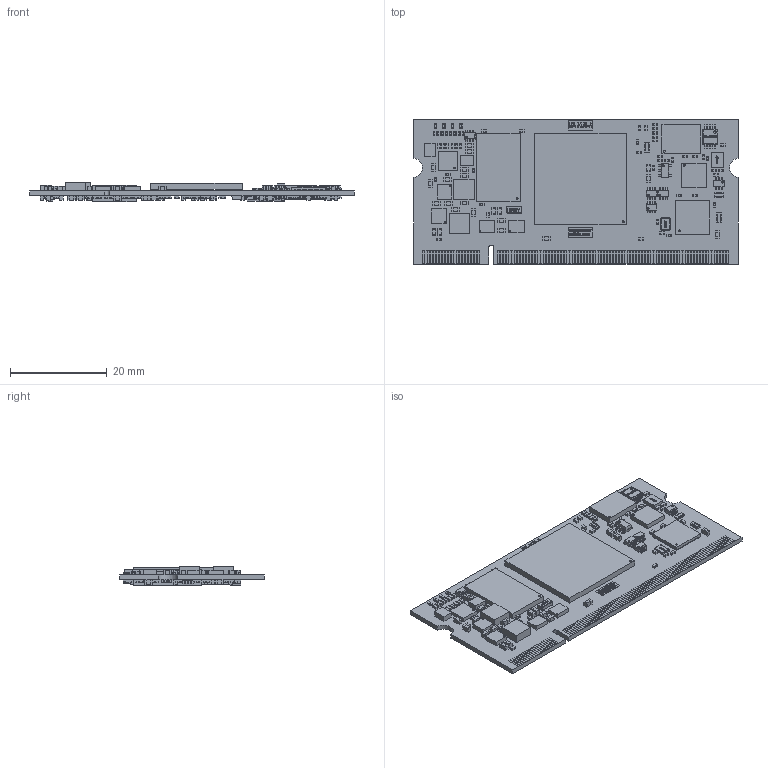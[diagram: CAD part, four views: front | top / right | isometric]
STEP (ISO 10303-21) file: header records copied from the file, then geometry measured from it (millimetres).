
FILE_DESCRIPTION(('Open CASCADE Model'),'2;1');
FILE_NAME('Open CASCADE Shape Model','2017-01-06T09:42:25',('Author'),( 'Open CASCADE'),'Open CASCADE STEP processor 6.8','Open CASCADE 6.8' ,'Unknown');
FILE_SCHEMA(('AUTOMOTIVE_DESIGN { 1 0 10303 214 1 1 1 1 }'));
Length unit declared in the file: millimetre
Products named in the file (372): --
Assembly tree (884 placements, depth 4):
  --
    --
    --
      --
    --
      --
    --
      --
        --
      --
        --
    --
      --
        --
      --
        --
    --
      --
    --
      --
    --
      --
        --
      --
        --
    --
      --
        --
      --
        --
    --
      --
    --
      --
        --
      --
        --
    --
      --
        --
      --
        --
    --
      --
    --
      --
    --
      --
    --
      --
    --
      --
    --
      --
    --
      --
    --
      --
    --
      --
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Bounding box: 67.2 x 30 x 4.03 mm (x, y, z)
Volume: 3324.3 mm3; surface area: 9022.2 mm2
Topology: 1007 solids, 1007 shells, 10249 faces, 23499 edges, 15392 vertices
Faces by surface type: plane 9338, bspline 492, cylinder 381, sphere 38
Full cylindrical faces by diameter (mm): 0.2 x8, 0.4 x6
Entity records: 157942 total; most frequent: CARTESIAN_POINT 48242, ORIENTED_EDGE 17860, DIRECTION 16013, EDGE_CURVE 8930, LINE 7525, VECTOR 7525, VERTEX_POINT 5838, AXIS2_PLACEMENT_3D 4244
